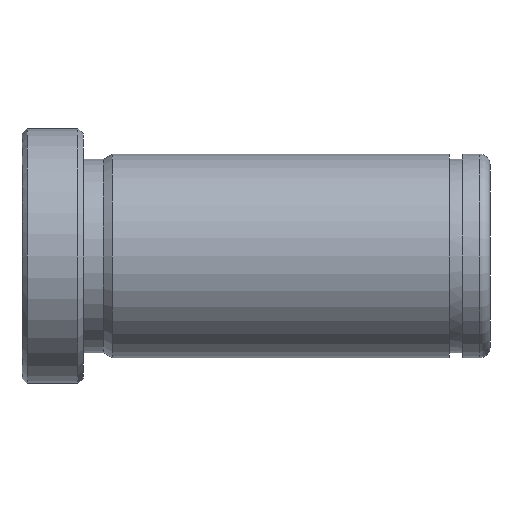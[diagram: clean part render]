
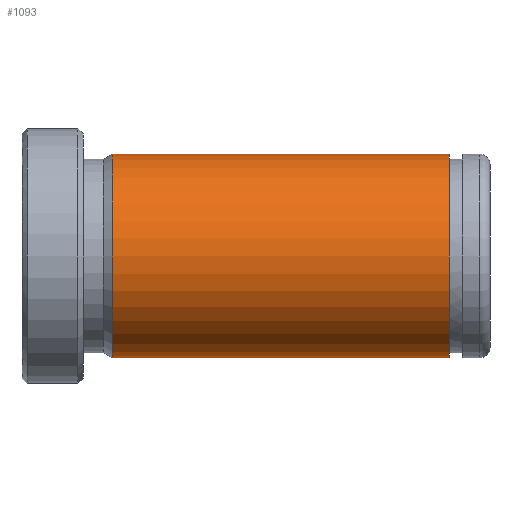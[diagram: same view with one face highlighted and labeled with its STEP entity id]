
A CAD part, front view. The second image highlights one B-rep face of the part: STEP entity #1093.
In plain terms, the highlighted cylindrical face has radius 10 mm (diameter 20 mm), a partial arc.
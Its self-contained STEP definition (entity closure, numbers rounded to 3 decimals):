
#877=CARTESIAN_POINT('Vertex',(8.866,0.,-10.)) ;
#884=CARTESIAN_POINT('Vertex',(8.866,0.,10.)) ;
#913=CARTESIAN_POINT('Axis2P3D Location',(8.866,0.,0.)) ;
#917=CARTESIAN_POINT('Vertex',(8.866,-10.,0.)) ;
#920=CARTESIAN_POINT('Axis2P3D Location',(8.866,0.,0.)) ;
#1033=CARTESIAN_POINT('Line Origine',(25.433,0.,10.)) ;
#1037=CARTESIAN_POINT('Vertex',(42.,0.,10.)) ;
#1051=CARTESIAN_POINT('Vertex',(42.,0.,-10.)) ;
#1054=CARTESIAN_POINT('Line Origine',(25.433,0.,-10.)) ;
#1068=CARTESIAN_POINT('Axis2P3D Location',(92.,0.,0.)) ;
#1073=CARTESIAN_POINT('Axis2P3D Location',(42.,0.,0.)) ;
#1077=CARTESIAN_POINT('Vertex',(42.,-10.,0.)) ;
#1080=CARTESIAN_POINT('Axis2P3D Location',(42.,0.,0.)) ;
#914=DIRECTION('Axis2P3D Direction',(1.,0.,-0.)) ;
#921=DIRECTION('Axis2P3D Direction',(1.,0.,-0.)) ;
#1034=DIRECTION('Vector Direction',(-1.,0.,0.)) ;
#1055=DIRECTION('Vector Direction',(-1.,0.,0.)) ;
#1069=DIRECTION('Axis2P3D Direction',(-1.,-0.,-0.)) ;
#1070=DIRECTION('Axis2P3D XDirection',(0.,0.,-1.)) ;
#1074=DIRECTION('Axis2P3D Direction',(-1.,-0.,-0.)) ;
#1081=DIRECTION('Axis2P3D Direction',(-1.,-0.,-0.)) ;
#915=AXIS2_PLACEMENT_3D('Circle Axis2P3D',#913,#914,$) ;
#922=AXIS2_PLACEMENT_3D('Circle Axis2P3D',#920,#921,$) ;
#1071=AXIS2_PLACEMENT_3D('Cylinder Axis2P3D',#1068,#1069,#1070) ;
#1075=AXIS2_PLACEMENT_3D('Circle Axis2P3D',#1073,#1074,$) ;
#1082=AXIS2_PLACEMENT_3D('Circle Axis2P3D',#1080,#1081,$) ;
#1086=ORIENTED_EDGE('',*,*,#1058,.T.) ;
#1087=ORIENTED_EDGE('',*,*,#1079,.F.) ;
#1088=ORIENTED_EDGE('',*,*,#1084,.F.) ;
#1089=ORIENTED_EDGE('',*,*,#1039,.T.) ;
#1090=ORIENTED_EDGE('',*,*,#924,.T.) ;
#1091=ORIENTED_EDGE('',*,*,#919,.T.) ;
#1035=VECTOR('Line Direction',#1034,1.) ;
#1056=VECTOR('Line Direction',#1055,1.) ;
#1093=ADVANCED_FACE('553-15X46',(#1092),#1072,.T.) ;
#916=CIRCLE('generated circle',#915,10.) ;
#923=CIRCLE('generated circle',#922,10.) ;
#1076=CIRCLE('generated circle',#1075,10.) ;
#1083=CIRCLE('generated circle',#1082,10.) ;
#1072=CYLINDRICAL_SURFACE('generated cylinder',#1071,10.) ;
#919=EDGE_CURVE('',#918,#878,#916,.T.) ;
#924=EDGE_CURVE('',#885,#918,#923,.T.) ;
#1039=EDGE_CURVE('',#1038,#885,#1036,.T.) ;
#1058=EDGE_CURVE('',#878,#1052,#1057,.F.) ;
#1079=EDGE_CURVE('',#1078,#1052,#1076,.F.) ;
#1084=EDGE_CURVE('',#1038,#1078,#1083,.F.) ;
#1085=EDGE_LOOP('',(#1086,#1087,#1088,#1089,#1090,#1091)) ;
#1092=FACE_OUTER_BOUND('',#1085,.T.) ;
#1036=LINE('Line',#1033,#1035) ;
#1057=LINE('Line',#1054,#1056) ;
#878=VERTEX_POINT('',#877) ;
#885=VERTEX_POINT('',#884) ;
#918=VERTEX_POINT('',#917) ;
#1038=VERTEX_POINT('',#1037) ;
#1052=VERTEX_POINT('',#1051) ;
#1078=VERTEX_POINT('',#1077) ;
